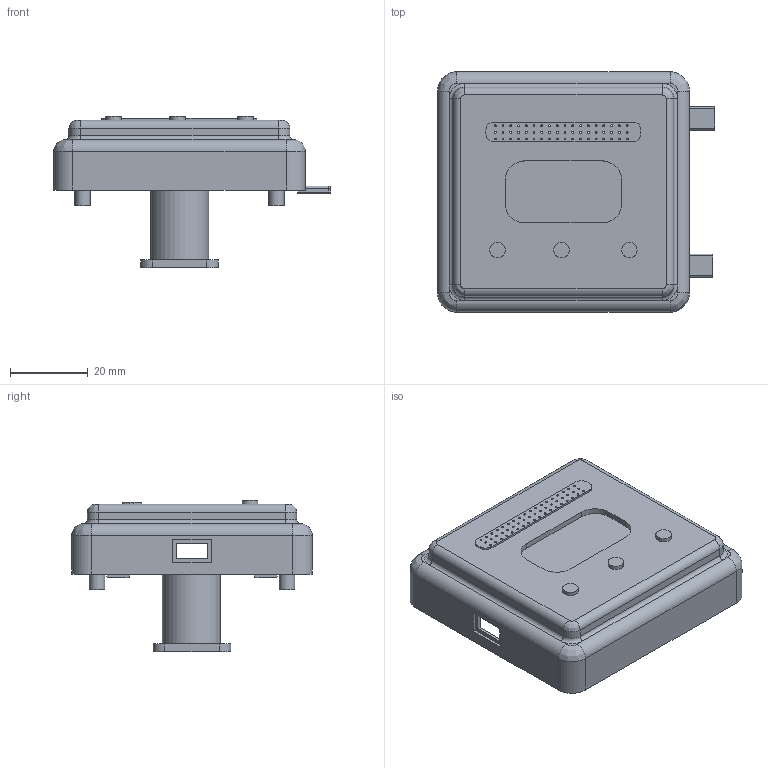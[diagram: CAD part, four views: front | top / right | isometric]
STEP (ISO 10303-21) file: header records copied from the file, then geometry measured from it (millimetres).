
FILE_DESCRIPTION(/* description */ (''),/* implementation_level */ '2;1');
FILE_NAME(/* name */ '样题6.stp',/* time_stamp */ '2021-03-16T12:59:58+08:00',/* author */ (''),/* organization */ (''),/* preprocessor_version */ 'ST-DEVELOPER v16',/* originating_system */ 'SIEMENS PLM Software NX 10.0',/* authorisation */ '');
FILE_SCHEMA (('AUTOMOTIVE_DESIGN { 1 0 10303 214 3 1 1 1 }'));
Length unit declared in the file: millimetre
Products named in the file (7): 外接件; 电器元件; 喇叭; 电路板; 屏幕; 按钮; 样题6
Assembly tree (9 placements, depth 2):
  样题6
    按钮  x3
    屏幕
    电路板
    喇叭
    电器元件
    外接件  x2
Bounding box: 71.47 x 62 x 39 mm (x, y, z)
Volume: 17272.9 mm3; surface area: 21424.4 mm2
Topology: 10 solids, 11 shells, 336 faces, 864 edges, 558 vertices
Faces by surface type: cylinder 165, plane 143, torus 20, bspline 8
Full cylindrical faces by diameter (mm): 0.5 x54, 1.5 x4, 2 x4, 4 x10, 15 x1
Entity records: 10332 total; most frequent: CARTESIAN_POINT 2176, DIRECTION 1697, ORIENTED_EDGE 1502, EDGE_CURVE 751, AXIS2_PLACEMENT_3D 660, EDGE_LOOP 530, VERTEX_POINT 525, LINE 377
